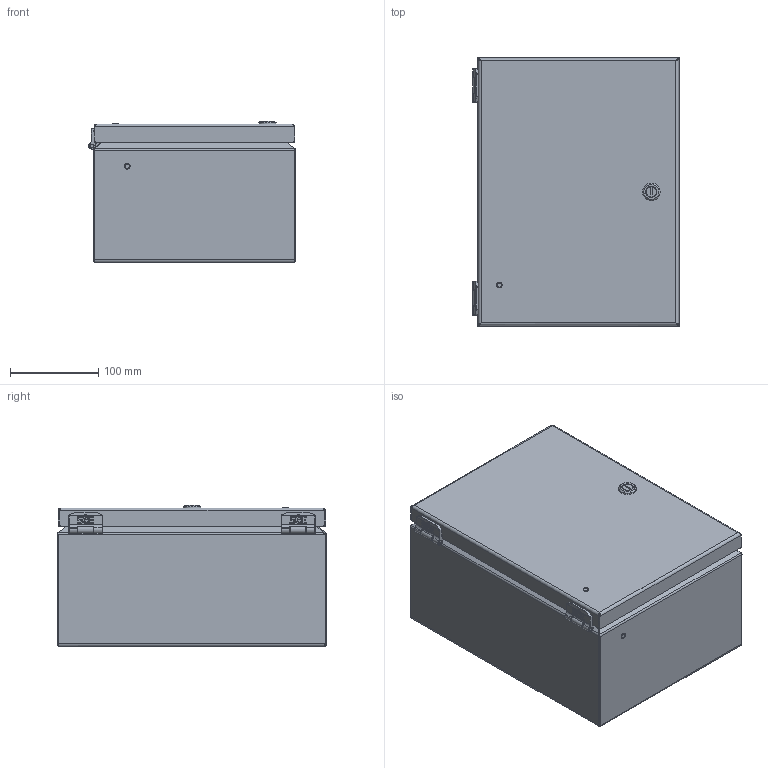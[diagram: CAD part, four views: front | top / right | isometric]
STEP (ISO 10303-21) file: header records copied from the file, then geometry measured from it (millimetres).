
FILE_DESCRIPTION((''),'2;1');
FILE_NAME('MODEL-097_ASM','2025-08-15T08:17:10',('johnh'),('SAGINAW CONTROL & ENGINEERING'),'CREO PARAMETRIC BY PTC INC, 2021284','CREO PARAMETRIC BY PTC INC, 2021284','');
FILE_SCHEMA(('AUTOMOTIVE_DESIGN { 1 0 10303 214 1 1 1 1 }'));
Length unit declared in the file: inch
Products named in the file (25): MODEL-097-BDY; 112643-BOX-LEAF; 112643-BOX-LEAF-STUD; 112643-BOX_ASM; 112643-DOOR-LEAF; 112643-DOOR-LEAF-STUD; 112643-DOOR_ASM; 112643-PIN; 112643_ASM; 113152; MODEL-097-DR; 100097; 100012; 112987_SHAFT; 112987_SCREW; 112987_CAM; 112987_INSERT; 112987_NUT; 112987_ASM; MODEL-097-GSKT; 120706; CH-ELJ_SUBPANEL; 102479; CH-ELJ_SUBPANEL-SUBASSEMBLY_ASM; MODEL-097_ASM
Assembly tree (35 placements, depth 4):
  MODEL-097_ASM
    MODEL-097-BDY
    112643_ASM  x2
      112643-BOX_ASM
        112643-BOX-LEAF
        112643-BOX-LEAF-STUD
      112643-DOOR_ASM
        112643-DOOR-LEAF
        112643-DOOR-LEAF-STUD
      112643-PIN
    113152  x4
    MODEL-097-DR
    100097  x2
    100012  x4
    112987_ASM
      112987_SHAFT
      112987_SCREW
      112987_CAM
      112987_INSERT
      112987_NUT
    MODEL-097-GSKT
    120706
    CH-ELJ_SUBPANEL-SUBASSEMBLY_ASM
      CH-ELJ_SUBPANEL
      102479  x4
Bounding box: 234.2 x 304.9 x 160.2 mm (x, y, z)
Volume: 651189.2 mm3; surface area: 803096.2 mm2
Topology: 33 solids, 35 shells, 3292 faces, 8479 edges, 5213 vertices
Faces by surface type: plane 1028, cylinder 925, bspline 874, cone 341, torus 114, sphere 10
Entity records: 116958 total; most frequent: CARTESIAN_POINT 59911, ORIENTED_EDGE 8818, DIRECTION 7193, PRESENTATION_STYLE_ASSIGNMENT 4643, STYLED_ITEM 4633, CURVE_STYLE 4409, EDGE_CURVE 4409, VERTEX_POINT 2751
